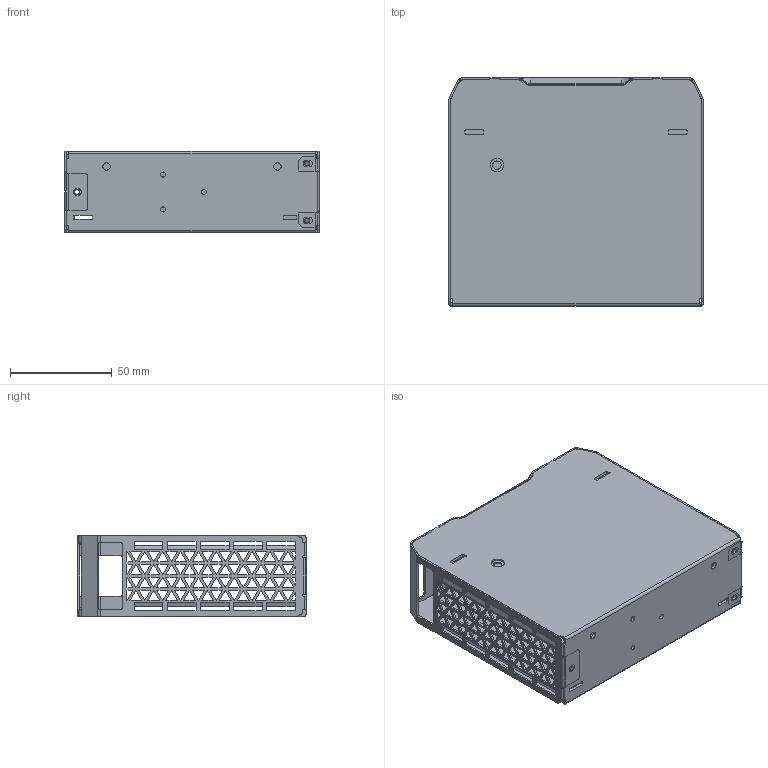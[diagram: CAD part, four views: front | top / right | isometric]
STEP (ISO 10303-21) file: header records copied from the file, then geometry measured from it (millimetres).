
FILE_DESCRIPTION (( 'STEP AP203' ), '1' );
FILE_NAME ('ZDR5-120~240 - MENOR.STEP', '2026-07-27T11:05:13', ( '' ), ( '' ), 'SwSTEP 2.0', 'SolidWorks 2019', '' );
FILE_SCHEMA (( 'CONFIG_CONTROL_DESIGN' ));
Length unit declared in the file: millimetre
Products named in the file (1): ZDR5-120~240 - MENOR
Bounding box: 125 x 112.15 x 40 mm (x, y, z)
Volume: 54878.2 mm3; surface area: 87454.3 mm2
Topology: 2 solids, 2 shells, 992 faces, 2908 edges, 1920 vertices
Faces by surface type: plane 834, cylinder 154, bspline 4
Entity records: 33399 total; most frequent: CARTESIAN_POINT 6042, ORIENTED_EDGE 5816, DIRECTION 5116, EDGE_CURVE 2908, VECTOR 2576, LINE 2576, VERTEX_POINT 1920, EDGE_LOOP 1400
